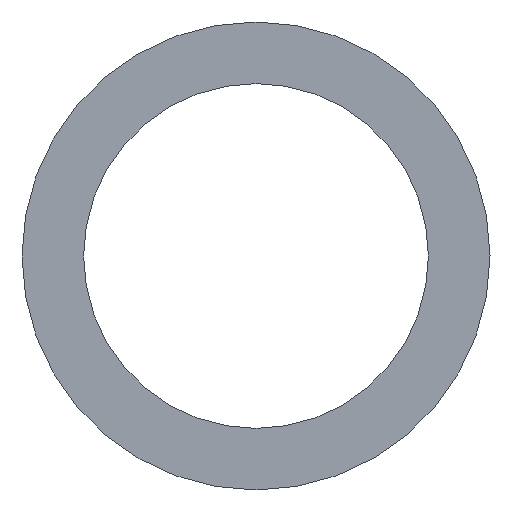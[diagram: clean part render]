
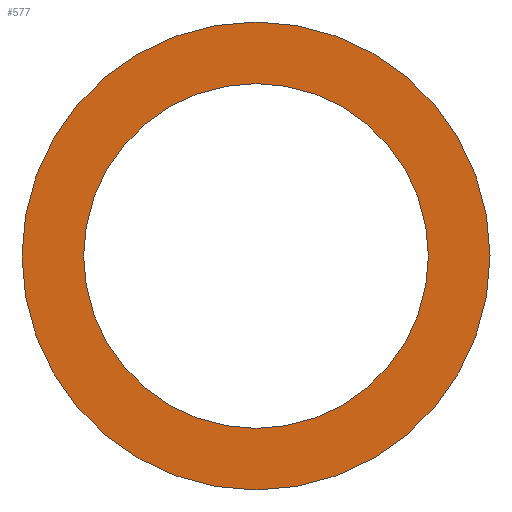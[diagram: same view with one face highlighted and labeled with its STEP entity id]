
A CAD part, left-side view. The second image highlights one B-rep face of the part: STEP entity #577.
In plain terms, the highlighted planar face has unit normal (-1, 0, 0) as drawn and (0, 0, -1) by its records, which use the part's own axes.
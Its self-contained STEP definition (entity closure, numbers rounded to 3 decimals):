
#577 = ADVANCED_FACE( '', ( #1297, #1298 ), #1299, .F. );
#1297 = FACE_OUTER_BOUND( '', #2183, .T. );
#1298 = FACE_BOUND( '', #2184, .T. );
#1299 = PLANE( '', #2185 );
#2183 = EDGE_LOOP( '', ( #3215 ) );
#2184 = EDGE_LOOP( '', ( #3216 ) );
#2185 = AXIS2_PLACEMENT_3D( '', #3217, #3218, #3219 );
#3215 = ORIENTED_EDGE( '', *, *, #3965, .T. );
#3216 = ORIENTED_EDGE( '', *, *, #3998, .F. );
#3217 = CARTESIAN_POINT( '', ( -35., 0., 0. ) );
#3218 = DIRECTION( '', ( 0., 0., 1. ) );
#3219 = DIRECTION( '', ( 1., 0., 0. ) );
#3965 = EDGE_CURVE( '', #4460, #4460, #4461, .T. );
#3998 = EDGE_CURVE( '', #4512, #4512, #4513, .T. );
#4460 = VERTEX_POINT( '', #5075 );
#4461 = CIRCLE( '', #5076, 47.5 );
#4512 = VERTEX_POINT( '', #5127 );
#4513 = CIRCLE( '', #5128, 35. );
#5075 = CARTESIAN_POINT( '', ( -47.5, 0., 0. ) );
#5076 = AXIS2_PLACEMENT_3D( '', #5726, #5727, #5728 );
#5127 = CARTESIAN_POINT( '', ( -35., 0., 0. ) );
#5128 = AXIS2_PLACEMENT_3D( '', #5783, #5784, #5785 );
#5726 = CARTESIAN_POINT( '', ( 0., 0., 0. ) );
#5727 = DIRECTION( '', ( 0., 0., -1. ) );
#5728 = DIRECTION( '', ( -1., 0., 0. ) );
#5783 = CARTESIAN_POINT( '', ( 0., 0., 0. ) );
#5784 = DIRECTION( '', ( 0., 0., -1. ) );
#5785 = DIRECTION( '', ( -1., 0., 0. ) );
